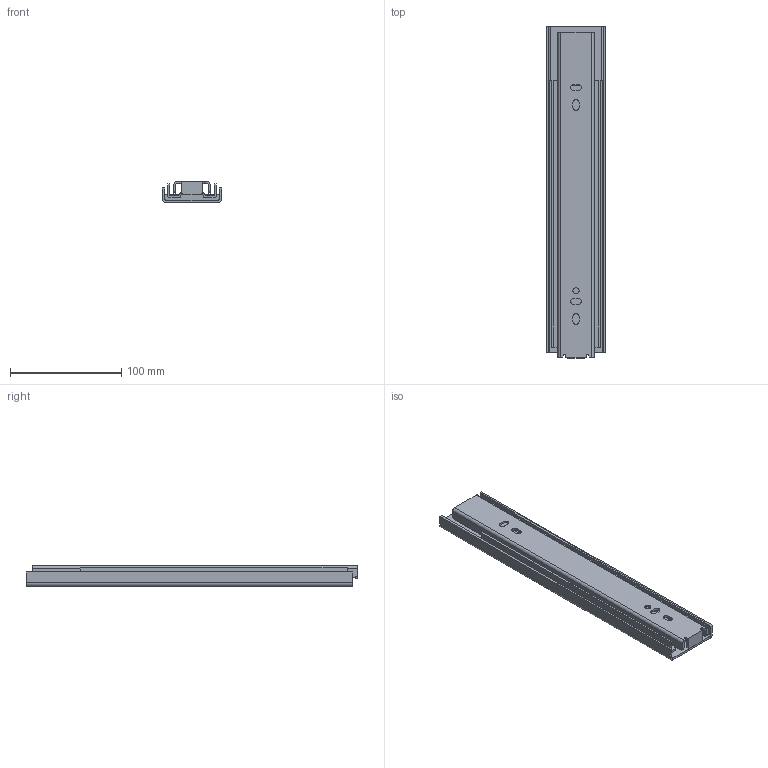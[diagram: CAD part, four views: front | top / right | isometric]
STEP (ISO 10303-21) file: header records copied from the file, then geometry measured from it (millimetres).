
FILE_DESCRIPTION((''),'2;1');
FILE_NAME('78A01_300_CLOSE_ASM','2020-09-01T15:00:27',('T170334'),(''),'CREO PARAMETRIC BY PTC INC, 2018260','CREO PARAMETRIC BY PTC INC, 2018260','');
FILE_SCHEMA(('CONFIG_CONTROL_DESIGN'));
Length unit declared in the file: millimetre
Products named in the file (5): OUT_300; MID_300; IN_300; MECHANISM_C; 78A01_300_CLOSE_ASM
Assembly tree (4 placements, depth 2):
  78A01_300_CLOSE_ASM
    OUT_300
    MID_300
    IN_300
    MECHANISM_C
Bounding box: 53.32 x 298 x 18.84 mm (x, y, z)
Volume: 108037.3 mm3; surface area: 111976.1 mm2
Topology: 4 solids, 4 shells, 134 faces, 374 edges, 248 vertices
Faces by surface type: plane 72, cylinder 62
Entity records: 4517 total; most frequent: CARTESIAN_POINT 811, DIRECTION 768, ORIENTED_EDGE 748, EDGE_CURVE 374, AXIS2_PLACEMENT_3D 259, VECTOR 250, LINE 250, VERTEX_POINT 248
